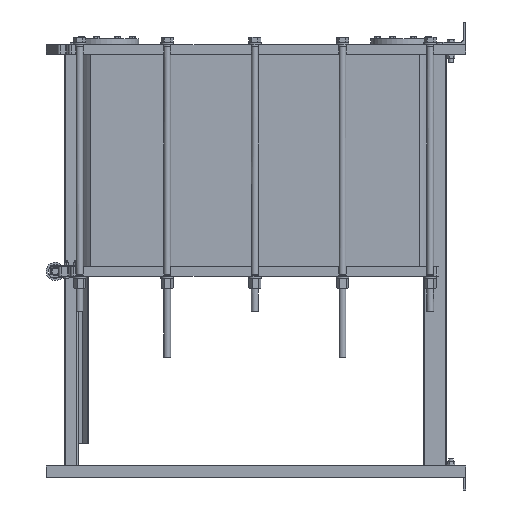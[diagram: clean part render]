
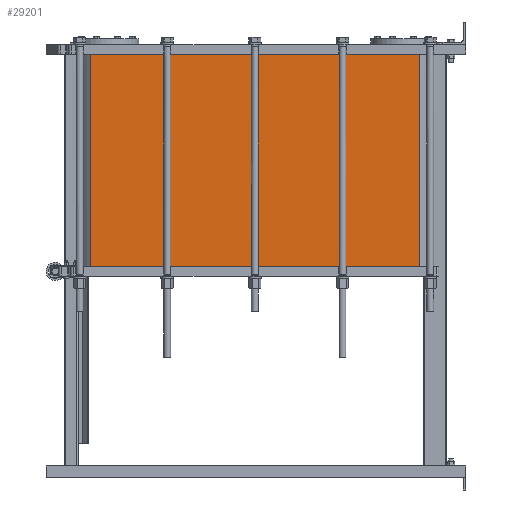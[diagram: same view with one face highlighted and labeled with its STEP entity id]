
A CAD part, left-side view. The second image highlights one B-rep face of the part: STEP entity #29201.
In plain terms, the highlighted planar face has unit normal (-1, 0, 0).
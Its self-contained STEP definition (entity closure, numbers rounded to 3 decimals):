
#996 = AXIS2_PLACEMENT_3D ( 'NONE', #74522, #144020, #20058 ) ;
#1984 = VERTEX_POINT ( 'NONE', #77278 ) ;
#13388 = LINE ( 'NONE', #137162, #40036 ) ;
#14350 = VERTEX_POINT ( 'NONE', #36633 ) ;
#16735 = LINE ( 'NONE', #93970, #144484 ) ;
#20058 = DIRECTION ( 'NONE',  ( 0., 1., 0. ) ) ;
#29201 = ADVANCED_FACE ( 'NONE', ( #78447 ), #143532, .T. ) ;
#30812 = VECTOR ( 'NONE', #132392, 1000. ) ;
#36065 = LINE ( 'NONE', #65442, #30812 ) ;
#36633 = CARTESIAN_POINT ( 'NONE',  ( 56., 202.28, -1070. ) ) ;
#37218 = EDGE_CURVE ( 'NONE', #44465, #91620, #13388, .T. ) ;
#37251 = CARTESIAN_POINT ( 'NONE',  ( 56., 202.28, -140. ) ) ;
#40036 = VECTOR ( 'NONE', #102886, 1000. ) ;
#40269 = EDGE_CURVE ( 'NONE', #14350, #1984, #16735, .T. ) ;
#41752 = EDGE_CURVE ( 'NONE', #91620, #14350, #36065, .T. ) ;
#44465 = VERTEX_POINT ( 'NONE', #89144 ) ;
#49059 = VECTOR ( 'NONE', #67339, 1000. ) ;
#58942 = DIRECTION ( 'NONE',  ( 0., 1., 0. ) ) ;
#63586 = ORIENTED_EDGE ( 'NONE', *, *, #40269, .F. ) ;
#65442 = CARTESIAN_POINT ( 'NONE',  ( 56., 202.28, -140. ) ) ;
#67339 = DIRECTION ( 'NONE',  ( 0., 0., -1. ) ) ;
#71377 = ORIENTED_EDGE ( 'NONE', *, *, #145546, .T. ) ;
#74522 = CARTESIAN_POINT ( 'NONE',  ( 56., 202.28, -140. ) ) ;
#76548 = ORIENTED_EDGE ( 'NONE', *, *, #37218, .F. ) ;
#77278 = CARTESIAN_POINT ( 'NONE',  ( 56., 1641.72, -1070. ) ) ;
#78447 = FACE_OUTER_BOUND ( 'NONE', #87737, .T. ) ;
#87737 = EDGE_LOOP ( 'NONE', ( #76548, #71377, #63586, #96136 ) ) ;
#89144 = CARTESIAN_POINT ( 'NONE',  ( 56., 1641.72, -140. ) ) ;
#91620 = VERTEX_POINT ( 'NONE', #37251 ) ;
#93970 = CARTESIAN_POINT ( 'NONE',  ( 56., 922., -1070. ) ) ;
#96136 = ORIENTED_EDGE ( 'NONE', *, *, #41752, .F. ) ;
#99959 = CARTESIAN_POINT ( 'NONE',  ( 56., 1641.72, -140. ) ) ;
#102886 = DIRECTION ( 'NONE',  ( 0., -1., 0. ) ) ;
#116450 = LINE ( 'NONE', #99959, #49059 ) ;
#132392 = DIRECTION ( 'NONE',  ( 0., 0., -1. ) ) ;
#137162 = CARTESIAN_POINT ( 'NONE',  ( 56., 922., -140. ) ) ;
#143532 = PLANE ( 'NONE',  #996 ) ;
#144020 = DIRECTION ( 'NONE',  ( -1., 0., 0. ) ) ;
#144484 = VECTOR ( 'NONE', #58942, 1000. ) ;
#145546 = EDGE_CURVE ( 'NONE', #44465, #1984, #116450, .T. ) ;
